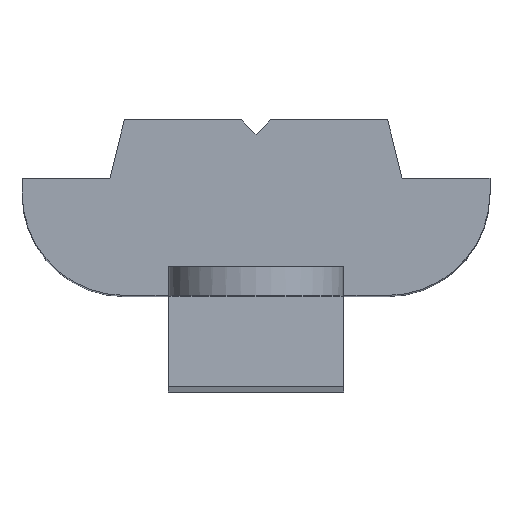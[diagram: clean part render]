
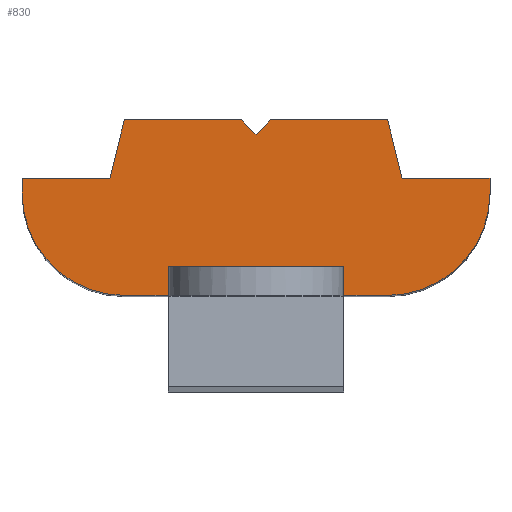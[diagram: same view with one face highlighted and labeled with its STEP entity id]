
A CAD part, top view. The second image highlights one B-rep face of the part: STEP entity #830.
In plain terms, the highlighted planar face has unit normal (0, 0, 1).
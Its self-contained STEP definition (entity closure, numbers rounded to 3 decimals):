
#219=DIRECTION('',(0.,1.,0.));
#220=VECTOR('',#219,1.);
#221=CARTESIAN_POINT('',(3.,-4.,12.5));
#222=LINE('',#221,#220);
#223=DIRECTION('',(-1.,0.,0.));
#224=VECTOR('',#223,6.);
#225=CARTESIAN_POINT('',(3.,-3.,12.5));
#226=LINE('',#225,#224);
#227=DIRECTION('',(0.,1.,0.));
#228=VECTOR('',#227,1.);
#229=CARTESIAN_POINT('',(-3.,-4.,12.5));
#230=LINE('',#229,#228);
#231=DIRECTION('',(1.,0.,0.));
#232=VECTOR('',#231,1.5);
#233=CARTESIAN_POINT('',(-4.5,-4.,12.5));
#234=LINE('',#233,#232);
#235=CARTESIAN_POINT('',(-4.5,-0.5,12.5));
#236=DIRECTION('',(0.,0.,1.));
#237=DIRECTION('',(-1.,0.,0.));
#238=AXIS2_PLACEMENT_3D('',#235,#236,#237);
#240=DIRECTION('',(0.,-1.,0.));
#241=VECTOR('',#240,0.5);
#242=CARTESIAN_POINT('',(-8.,0.,12.5));
#243=LINE('',#242,#241);
#244=DIRECTION('',(-1.,0.,0.));
#245=VECTOR('',#244,3.);
#246=CARTESIAN_POINT('',(-5.,0.,12.5));
#247=LINE('',#246,#245);
#248=DIRECTION('',(-0.243,-0.97,0.));
#249=VECTOR('',#248,2.062);
#250=CARTESIAN_POINT('',(-4.5,2.,12.5));
#251=LINE('',#250,#249);
#252=DIRECTION('',(-1.,0.,0.));
#253=VECTOR('',#252,4.);
#254=CARTESIAN_POINT('',(-0.5,2.,12.5));
#255=LINE('',#254,#253);
#256=DIRECTION('',(-0.707,0.707,0.));
#257=VECTOR('',#256,0.707);
#258=CARTESIAN_POINT('',(0.,1.5,12.5));
#259=LINE('',#258,#257);
#260=DIRECTION('',(-0.707,-0.707,0.));
#261=VECTOR('',#260,0.707);
#262=CARTESIAN_POINT('',(0.5,2.,12.5));
#263=LINE('',#262,#261);
#264=DIRECTION('',(-1.,0.,0.));
#265=VECTOR('',#264,4.);
#266=CARTESIAN_POINT('',(4.5,2.,12.5));
#267=LINE('',#266,#265);
#268=DIRECTION('',(-0.243,0.97,0.));
#269=VECTOR('',#268,2.062);
#270=CARTESIAN_POINT('',(5.,0.,12.5));
#271=LINE('',#270,#269);
#272=DIRECTION('',(-1.,0.,0.));
#273=VECTOR('',#272,3.);
#274=CARTESIAN_POINT('',(8.,0.,12.5));
#275=LINE('',#274,#273);
#276=DIRECTION('',(0.,1.,0.));
#277=VECTOR('',#276,0.5);
#278=CARTESIAN_POINT('',(8.,-0.5,12.5));
#279=LINE('',#278,#277);
#280=CARTESIAN_POINT('',(4.5,-0.5,12.5));
#281=DIRECTION('',(0.,0.,1.));
#282=DIRECTION('',(0.,-1.,0.));
#283=AXIS2_PLACEMENT_3D('',#280,#281,#282);
#285=DIRECTION('',(1.,0.,0.));
#286=VECTOR('',#285,1.5);
#287=CARTESIAN_POINT('',(3.,-4.,12.5));
#288=LINE('',#287,#286);
#395=CARTESIAN_POINT('',(8.,0.,12.5));
#396=CARTESIAN_POINT('',(5.,0.,12.5));
#397=VERTEX_POINT('',#395);
#398=VERTEX_POINT('',#396);
#399=CARTESIAN_POINT('',(4.5,2.,12.5));
#400=CARTESIAN_POINT('',(0.5,2.,12.5));
#401=VERTEX_POINT('',#399);
#402=VERTEX_POINT('',#400);
#403=CARTESIAN_POINT('',(0.,1.5,12.5));
#404=VERTEX_POINT('',#403);
#435=CARTESIAN_POINT('',(-0.5,2.,12.5));
#436=VERTEX_POINT('',#435);
#437=CARTESIAN_POINT('',(-4.5,2.,12.5));
#438=VERTEX_POINT('',#437);
#439=CARTESIAN_POINT('',(-5.,0.,12.5));
#440=VERTEX_POINT('',#439);
#441=CARTESIAN_POINT('',(-8.,0.,12.5));
#442=VERTEX_POINT('',#441);
#443=CARTESIAN_POINT('',(-8.,-0.5,12.5));
#444=VERTEX_POINT('',#443);
#445=CARTESIAN_POINT('',(-4.5,-4.,12.5));
#446=VERTEX_POINT('',#445);
#447=CARTESIAN_POINT('',(4.5,-4.,12.5));
#448=CARTESIAN_POINT('',(8.,-0.5,12.5));
#449=VERTEX_POINT('',#447);
#450=VERTEX_POINT('',#448);
#453=CARTESIAN_POINT('',(3.,-4.,12.5));
#454=CARTESIAN_POINT('',(3.,-3.,12.5));
#455=VERTEX_POINT('',#453);
#456=VERTEX_POINT('',#454);
#457=CARTESIAN_POINT('',(-3.,-3.,12.5));
#458=VERTEX_POINT('',#457);
#459=CARTESIAN_POINT('',(-3.,-4.,12.5));
#460=VERTEX_POINT('',#459);
#796=CARTESIAN_POINT('',(0.,0.,12.5));
#797=DIRECTION('',(0.,0.,1.));
#798=DIRECTION('',(1.,0.,0.));
#799=AXIS2_PLACEMENT_3D('',#796,#797,#798);
#800=PLANE('',#799);
#801=ORIENTED_EDGE('',*,*,#597,.T.);
#802=ORIENTED_EDGE('',*,*,#626,.T.);
#803=ORIENTED_EDGE('',*,*,#548,.F.);
#805=ORIENTED_EDGE('',*,*,#804,.F.);
#807=ORIENTED_EDGE('',*,*,#806,.F.);
#809=ORIENTED_EDGE('',*,*,#808,.F.);
#811=ORIENTED_EDGE('',*,*,#810,.F.);
#813=ORIENTED_EDGE('',*,*,#812,.F.);
#814=ORIENTED_EDGE('',*,*,#734,.F.);
#815=ORIENTED_EDGE('',*,*,#765,.F.);
#816=ORIENTED_EDGE('',*,*,#790,.F.);
#817=ORIENTED_EDGE('',*,*,#699,.F.);
#819=ORIENTED_EDGE('',*,*,#818,.F.);
#821=ORIENTED_EDGE('',*,*,#820,.F.);
#823=ORIENTED_EDGE('',*,*,#822,.F.);
#825=ORIENTED_EDGE('',*,*,#824,.F.);
#827=ORIENTED_EDGE('',*,*,#826,.F.);
#828=EDGE_LOOP('',(#801,#802,#803,#805,#807,#809,#811,#813,#814,#815,#816,#817,
#819,#821,#823,#825,#827));
#829=FACE_OUTER_BOUND('',#828,.F.);
#830=ADVANCED_FACE('',(#829),#800,.T.);
#239=CIRCLE('',#238,3.5);
#284=CIRCLE('',#283,3.5);
#548=EDGE_CURVE('',#460,#458,#230,.T.);
#597=EDGE_CURVE('',#455,#456,#222,.T.);
#626=EDGE_CURVE('',#456,#458,#226,.T.);
#699=EDGE_CURVE('',#401,#402,#267,.T.);
#734=EDGE_CURVE('',#436,#438,#255,.T.);
#765=EDGE_CURVE('',#404,#436,#259,.T.);
#790=EDGE_CURVE('',#402,#404,#263,.T.);
#804=EDGE_CURVE('',#446,#460,#234,.T.);
#806=EDGE_CURVE('',#444,#446,#239,.T.);
#808=EDGE_CURVE('',#442,#444,#243,.T.);
#810=EDGE_CURVE('',#440,#442,#247,.T.);
#812=EDGE_CURVE('',#438,#440,#251,.T.);
#818=EDGE_CURVE('',#398,#401,#271,.T.);
#820=EDGE_CURVE('',#397,#398,#275,.T.);
#822=EDGE_CURVE('',#450,#397,#279,.T.);
#824=EDGE_CURVE('',#449,#450,#284,.T.);
#826=EDGE_CURVE('',#455,#449,#288,.T.);
